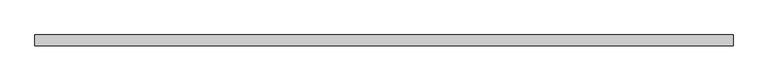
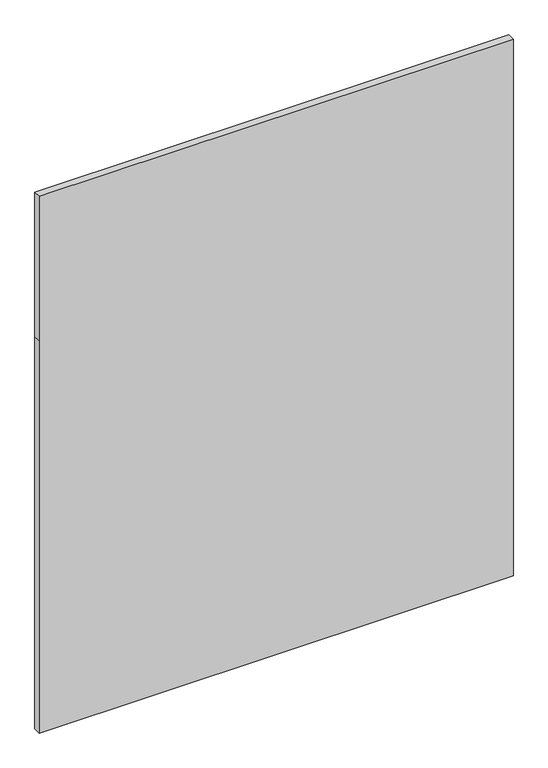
"""IFC4 building model written with IfcOpenShell, lengths in millimetres: plate geometry, Системная панель : ADSK_Cтеклопакет_25 мм."""

from ifc_helpers import new_model, si_unit, frame, origin, place, context, project, spatial, polyline, outline, extrude, source, transform, mapped, element, save


def plate_ab8c2a42(model_context):
    return source(origin(), model_context, "Body", "SweptSolid", [
        extrude(outline(polyline([(0.0, -815.0), (0.0, 815.0), (1425.0, 815.0), (1950.0, 815.0), (1950.0, -815.0), (1425.0, -815.0), (0.0, -815.0)])), frame((0.0, -12.5, 0.0), z_axis=(0.0, 1.0, 0.0), x_axis=(0.0, 0.0, 1.0)), (0.0, 0.0, 1.0), 25.0),
    ])


if __name__ == "__main__":
    model = new_model("IFC4")
    model_context = context("Model", 3, world=origin())
    ifc_project = project(units=[si_unit("LENGTHUNIT", "METRE", prefix="MILLI")], contexts=[model_context])
    site = spatial("IfcSite", under=ifc_project)
    building = spatial("IfcBuilding", under=site)
    placement = place(None, origin())
    plate_shape = plate_ab8c2a42(model_context)
    element("IfcPlate", 1, ObjectType="Системная панель : ADSK_Cтеклопакет_25 мм", at=placement, inside=building, context=model_context, shape_type="MappedRepresentation", body=[
        mapped(plate_shape, transform((0.0, 0.0, 0.0), x_axis=(1.0, 0.0, 0.0), y_axis=(0.0, 1.0, 0.0), z_axis=(0.0, 0.0, 1.0))),
    ])
    save(model, "model.ifc")
